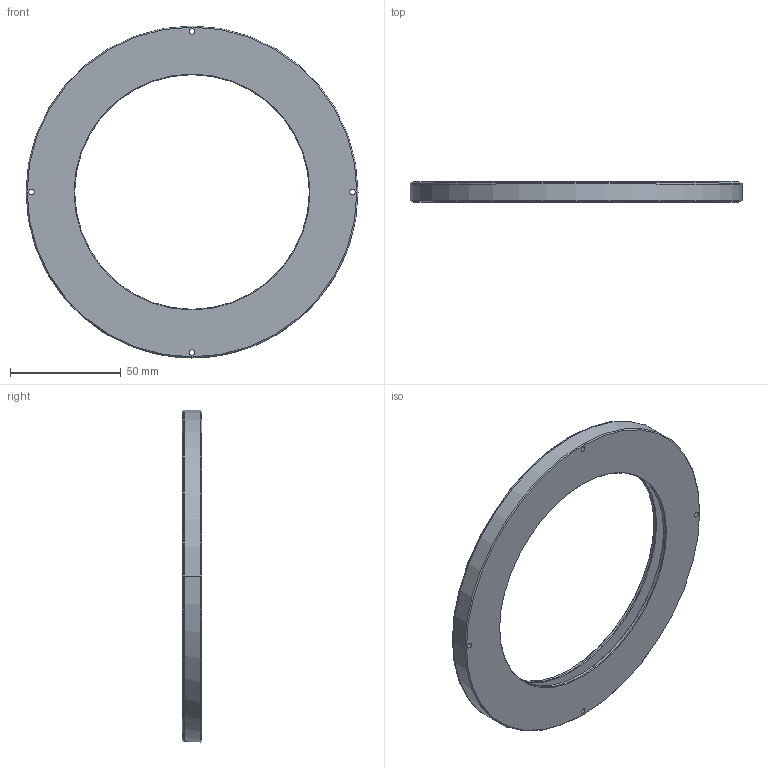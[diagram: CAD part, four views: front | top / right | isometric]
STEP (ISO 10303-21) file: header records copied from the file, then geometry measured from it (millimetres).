
FILE_DESCRIPTION (( 'STEP AP203' ), '1' );
FILE_NAME ('CRT-RL15000-¼òÒ×3DÍ¼.STEP', '2021-12-20T07:28:35', ( 'Admin' ), ( '' ), 'SwSTEP 2.0', 'SolidWorks 2018', '' );
FILE_SCHEMA (( 'CONFIG_CONTROL_DESIGN' ));
Length unit declared in the file: millimetre
Products named in the file (1): CRT-RL15000-潠眢3D芞
Bounding box: 150 x 9 x 150 mm (x, y, z)
Surface area: 42054 mm2 (no closed solid volume)
Topology: 0 solids, 4 shells, 96 faces, 258 edges, 168 vertices
Faces by surface type: cylinder 58, cone 28, plane 9, bspline 1
Full cylindrical faces by diameter (mm): 124 x1
Entity records: 3558 total; most frequent: CARTESIAN_POINT 876, DIRECTION 604, ORIENTED_EDGE 478, EDGE_CURVE 259, AXIS2_PLACEMENT_3D 254, VERTEX_POINT 170, CIRCLE 158, EDGE_LOOP 143
